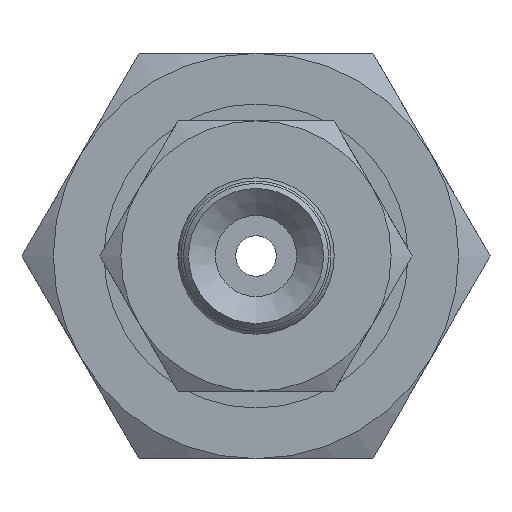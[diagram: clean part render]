
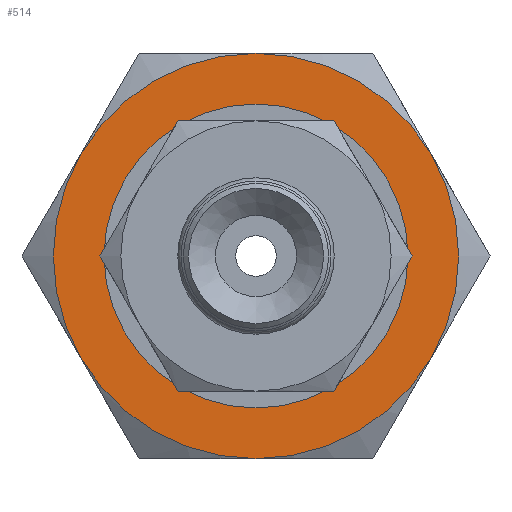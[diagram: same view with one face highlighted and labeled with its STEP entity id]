
A CAD part, front view. The second image highlights one B-rep face of the part: STEP entity #514.
In plain terms, the highlighted planar face has unit normal (0, -1, 0) as drawn and (-1, 0, 0) by its records, which use the part's own axes.
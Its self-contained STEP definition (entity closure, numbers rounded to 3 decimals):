
#514=ADVANCED_FACE('',(#709,#710),#711,.F.);
#709=FACE_BOUND('',#1007,.T.);
#710=FACE_OUTER_BOUND('',#1008,.T.);
#711=PLANE('',#1009);
#1007=EDGE_LOOP('',(#1582));
#1008=EDGE_LOOP('',(#1583,#1584,#1585,#1586,#1587,#1588));
#1009=AXIS2_PLACEMENT_3D('',#1589,#1590,#1591);
#1582=ORIENTED_EDGE('',*,*,#2075,.T.);
#1583=ORIENTED_EDGE('',*,*,#2068,.F.);
#1584=ORIENTED_EDGE('',*,*,#2044,.F.);
#1585=ORIENTED_EDGE('',*,*,#2036,.F.);
#1586=ORIENTED_EDGE('',*,*,#2076,.F.);
#1587=ORIENTED_EDGE('',*,*,#2064,.F.);
#1588=ORIENTED_EDGE('',*,*,#2065,.F.);
#1589=CARTESIAN_POINT('',(0.,0.0,0.0));
#1590=DIRECTION('',(1.0,0.0,0.0));
#1591=DIRECTION('',(0.0,1.0,0.0));
#2036=EDGE_CURVE('',#2305,#2306,#2307,.T.);
#2044=EDGE_CURVE('',#2306,#2320,#2321,.T.);
#2064=EDGE_CURVE('',#2353,#2342,#2355,.T.);
#2065=EDGE_CURVE('',#2356,#2353,#2357,.T.);
#2068=EDGE_CURVE('',#2320,#2356,#2361,.T.);
#2075=EDGE_CURVE('',#2368,#2368,#2369,.T.);
#2076=EDGE_CURVE('',#2342,#2305,#2370,.T.);
#2305=VERTEX_POINT('',#2753);
#2306=VERTEX_POINT('',#2754);
#2307=CIRCLE('',#2755,6.0);
#2320=VERTEX_POINT('',#2820);
#2321=CIRCLE('',#2821,6.0);
#2342=VERTEX_POINT('',#2915);
#2353=VERTEX_POINT('',#2986);
#2355=CIRCLE('',#2998,6.0);
#2356=VERTEX_POINT('',#2999);
#2357=CIRCLE('',#3000,6.0);
#2361=CIRCLE('',#3024,6.0);
#2368=VERTEX_POINT('',#3061);
#2369=CIRCLE('',#3062,4.0);
#2370=CIRCLE('',#3063,6.0);
#2753=CARTESIAN_POINT('',(0.,-5.196,-3.0));
#2754=CARTESIAN_POINT('',(0.,0.0,-6.0));
#2755=AXIS2_PLACEMENT_3D('',#3357,#3358,#3359);
#2820=CARTESIAN_POINT('',(0.,5.196,-3.0));
#2821=AXIS2_PLACEMENT_3D('',#3362,#3363,#3364);
#2915=CARTESIAN_POINT('',(0.,-5.196,3.0));
#2986=CARTESIAN_POINT('',(0.,0.0,6.0));
#2998=AXIS2_PLACEMENT_3D('',#3374,#3375,#3376);
#2999=CARTESIAN_POINT('',(0.,5.196,3.0));
#3000=AXIS2_PLACEMENT_3D('',#3377,#3378,#3379);
#3024=AXIS2_PLACEMENT_3D('',#3380,#3381,#3382);
#3061=CARTESIAN_POINT('',(0.,0.0,-4.0));
#3062=AXIS2_PLACEMENT_3D('',#3392,#3393,#3394);
#3063=AXIS2_PLACEMENT_3D('',#3395,#3396,#3397);
#3357=CARTESIAN_POINT('',(0.,0.0,0.0));
#3358=DIRECTION('',(1.0,0.0,0.0));
#3359=DIRECTION('',(0.0,0.0,-1.0));
#3362=CARTESIAN_POINT('',(0.,0.0,0.0));
#3363=DIRECTION('',(1.0,0.0,0.0));
#3364=DIRECTION('',(0.0,0.0,-1.0));
#3374=CARTESIAN_POINT('',(0.,0.0,0.0));
#3375=DIRECTION('',(1.0,0.0,0.0));
#3376=DIRECTION('',(0.0,0.0,-1.0));
#3377=CARTESIAN_POINT('',(0.,0.0,0.0));
#3378=DIRECTION('',(1.0,0.0,0.0));
#3379=DIRECTION('',(0.0,0.0,-1.0));
#3380=CARTESIAN_POINT('',(0.,0.0,0.0));
#3381=DIRECTION('',(1.0,0.0,0.0));
#3382=DIRECTION('',(0.0,0.0,-1.0));
#3392=CARTESIAN_POINT('',(0.,0.0,0.0));
#3393=DIRECTION('',(1.0,0.0,0.0));
#3394=DIRECTION('',(0.0,0.0,-1.0));
#3395=CARTESIAN_POINT('',(0.,0.0,0.0));
#3396=DIRECTION('',(1.0,0.0,0.0));
#3397=DIRECTION('',(0.0,0.0,-1.0));
